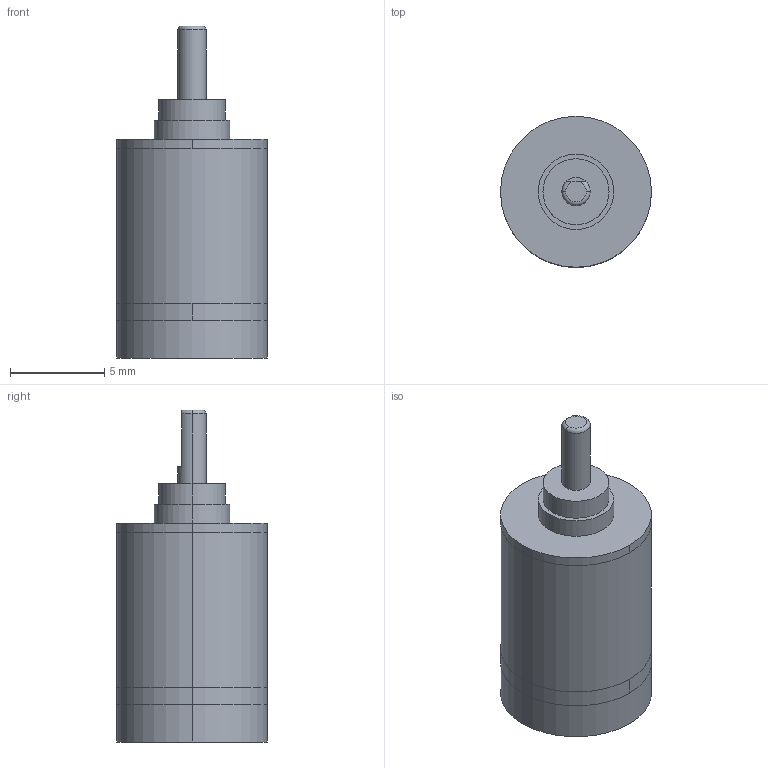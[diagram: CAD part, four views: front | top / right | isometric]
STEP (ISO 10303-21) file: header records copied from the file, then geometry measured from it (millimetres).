
FILE_DESCRIPTION (( 'STEP AP203' ), '1' );
FILE_NAME ('IG-08(II)-1stage.STEP', '2023-03-23T01:00:38', ( '' ), ( '' ), 'SwSTEP 2.0', 'SolidWorks 2019', '' );
FILE_SCHEMA (( 'CONFIG_CONTROL_DESIGN' ));
Length unit declared in the file: millimetre
Products named in the file (1): IG-08(II)-1stage
Bounding box: 8 x 8 x 17.6 mm (x, y, z)
Volume: 658.9 mm3; surface area: 708.4 mm2
Topology: 3 solids, 3 shells, 35 faces, 66 edges, 43 vertices
Faces by surface type: cylinder 18, plane 14, torus 3
Entity records: 982 total; most frequent: DIRECTION 179, CARTESIAN_POINT 159, ORIENTED_EDGE 132, AXIS2_PLACEMENT_3D 79, EDGE_CURVE 66, VERTEX_POINT 43, CIRCLE 43, EDGE_LOOP 41
